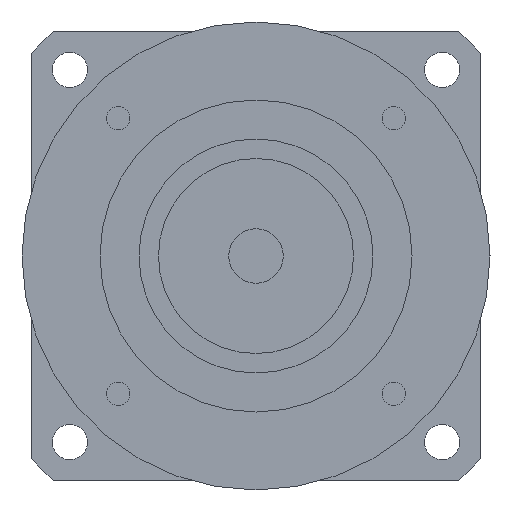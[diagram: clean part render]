
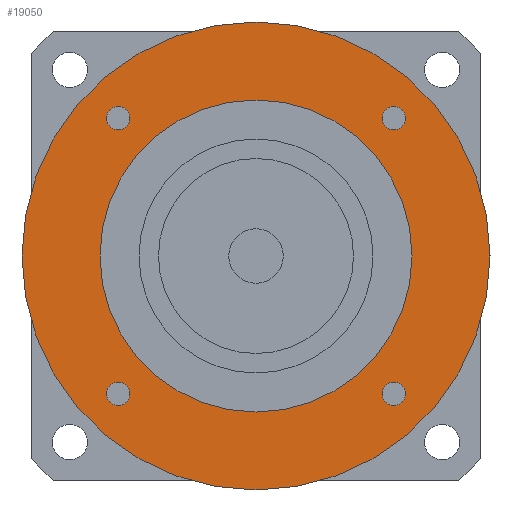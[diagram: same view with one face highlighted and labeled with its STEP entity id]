
A CAD part, left-side view. The second image highlights one B-rep face of the part: STEP entity #19050.
In plain terms, the highlighted planar face has unit normal (-1, 0, 0) as drawn and (0, 0, -1) by its records, which use the part's own axes.
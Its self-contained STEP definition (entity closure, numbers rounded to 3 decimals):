
#15860=CARTESIAN_POINT('',(-35.355,32.355,-106.));
#15870=VERTEX_POINT('',#15860);
#16050=CARTESIAN_POINT('',(-35.355,38.355,-106.));
#16060=VERTEX_POINT('',#16050);
#16090=CARTESIAN_POINT('',(-35.355,35.355,-106.));
#16100=DIRECTION('',(0.,0.,1.));
#16110=DIRECTION('',(0.,-1.,0.));
#16120=AXIS2_PLACEMENT_3D('',#16090,#16100,#16110);
#16130=CIRCLE('',#16120,3.);
#16140=EDGE_CURVE('',#16060,#15870,#16130,.T.);
#16280=CARTESIAN_POINT('',(-32.355,-35.355,-106.));
#16290=VERTEX_POINT('',#16280);
#16470=CARTESIAN_POINT('',(-38.355,-35.355,-106.));
#16480=VERTEX_POINT('',#16470);
#16510=CARTESIAN_POINT('',(-35.355,-35.355,-106.));
#16520=DIRECTION('',(0.,0.,1.));
#16530=DIRECTION('',(1.,0.,0.));
#16540=AXIS2_PLACEMENT_3D('',#16510,#16520,#16530);
#16550=CIRCLE('',#16540,3.);
#16560=EDGE_CURVE('',#16480,#16290,#16550,.T.);
#18080=CARTESIAN_POINT('',(60.,0.,-106.));
#18090=VERTEX_POINT('',#18080);
#18120=CARTESIAN_POINT('',(0.,0.,
-106.));
#18130=DIRECTION('',(0.,0.,1.));
#18140=DIRECTION('',(0.,-1.,0.));
#18150=AXIS2_PLACEMENT_3D('',#18120,#18130,#18140);
#18160=CIRCLE('',#18150,60.);
#18170=CARTESIAN_POINT('',(0.,-60.,-106.));
#18180=VERTEX_POINT('',#18170);
#18190=EDGE_CURVE('',#18180,#18090,#18160,.T.);
#18210=CARTESIAN_POINT('',(-60.,0.,-106.));
#18220=VERTEX_POINT('',#18210);
#18230=EDGE_CURVE('',#18220,#18180,#18160,.T.);
#18350=CARTESIAN_POINT('',(0.,0.,
-106.));
#18360=DIRECTION('',(0.,0.,1.));
#18370=DIRECTION('',(-1.,0.,0.));
#18380=AXIS2_PLACEMENT_3D('',#18350,#18360,#18370);
#18390=PLANE('',#18380);
#18400=CARTESIAN_POINT('',(0.,0.,
-106.));
#18410=DIRECTION('',(0.,0.,1.));
#18420=DIRECTION('',(0.,-1.,0.));
#18430=AXIS2_PLACEMENT_3D('',#18400,#18410,#18420);
#18440=CIRCLE('',#18430,40.);
#18450=CARTESIAN_POINT('',(40.,0.,-106.));
#18460=VERTEX_POINT('',#18450);
#18470=CARTESIAN_POINT('',(-40.,0.,-106.));
#18480=VERTEX_POINT('',#18470);
#18490=EDGE_CURVE('',#18460,#18480,#18440,.T.);
#18500=ORIENTED_EDGE('',*,*,#18490,.T.);
#18510=CARTESIAN_POINT('',(0.,-40.,-106.));
#18520=VERTEX_POINT('',#18510);
#18530=EDGE_CURVE('',#18520,#18460,#18440,.T.);
#18540=ORIENTED_EDGE('',*,*,#18530,.T.);
#18550=EDGE_CURVE('',#18480,#18520,#18440,.T.);
#18560=ORIENTED_EDGE('',*,*,#18550,.T.);
#18570=EDGE_LOOP('',(#18560,#18540,#18500));
#18580=FACE_BOUND('',#18570,.T.);
#18590=CARTESIAN_POINT('',(35.355,-35.355,-106.));
#18600=DIRECTION('',(0.,0.,1.));
#18610=DIRECTION('',(0.,1.,0.));
#18620=AXIS2_PLACEMENT_3D('',#18590,#18600,#18610);
#18630=CIRCLE('',#18620,3.);
#18640=CARTESIAN_POINT('',(35.355,-32.355,-106.));
#18650=VERTEX_POINT('',#18640);
#18660=CARTESIAN_POINT('',(35.355,-38.355,-106.));
#18670=VERTEX_POINT('',#18660);
#18680=EDGE_CURVE('',#18650,#18670,#18630,.T.);
#18690=ORIENTED_EDGE('',*,*,#18680,.T.);
#18700=EDGE_CURVE('',#18670,#18650,#18630,.T.);
#18710=ORIENTED_EDGE('',*,*,#18700,.T.);
#18720=EDGE_LOOP('',(#18710,#18690));
#18730=FACE_BOUND('',#18720,.T.);
#18740=CARTESIAN_POINT('',(35.355,35.355,-106.));
#18750=DIRECTION('',(0.,0.,1.));
#18760=DIRECTION('',(-1.,0.,0.));
#18770=AXIS2_PLACEMENT_3D('',#18740,#18750,#18760);
#18780=CIRCLE('',#18770,3.);
#18790=CARTESIAN_POINT('',(32.355,35.355,-106.));
#18800=VERTEX_POINT('',#18790);
#18810=CARTESIAN_POINT('',(38.355,35.355,-106.));
#18820=VERTEX_POINT('',#18810);
#18830=EDGE_CURVE('',#18800,#18820,#18780,.T.);
#18840=ORIENTED_EDGE('',*,*,#18830,.T.);
#18850=EDGE_CURVE('',#18820,#18800,#18780,.T.);
#18860=ORIENTED_EDGE('',*,*,#18850,.T.);
#18870=EDGE_LOOP('',(#18860,#18840));
#18880=FACE_BOUND('',#18870,.T.);
#18890=EDGE_CURVE('',#15870,#16060,#16130,.T.);
#18900=ORIENTED_EDGE('',*,*,#18890,.T.);
#18910=ORIENTED_EDGE('',*,*,#16140,.T.);
#18920=EDGE_LOOP('',(#18910,#18900));
#18930=FACE_BOUND('',#18920,.T.);
#18940=EDGE_CURVE('',#16290,#16480,#16550,.T.);
#18950=ORIENTED_EDGE('',*,*,#18940,.T.);
#18960=ORIENTED_EDGE('',*,*,#16560,.T.);
#18970=EDGE_LOOP('',(#18960,#18950));
#18980=FACE_BOUND('',#18970,.T.);
#18990=ORIENTED_EDGE('',*,*,#18190,.F.);
#19000=EDGE_CURVE('',#18090,#18220,#18160,.T.);
#19010=ORIENTED_EDGE('',*,*,#19000,.F.);
#19020=ORIENTED_EDGE('',*,*,#18230,.F.);
#19030=EDGE_LOOP('',(#19020,#19010,#18990));
#19040=FACE_OUTER_BOUND('',#19030,.T.);
#19050=ADVANCED_FACE('',(#18580,#18730,#18880,#18930,#18980,#19040),
#18390,.F.);
